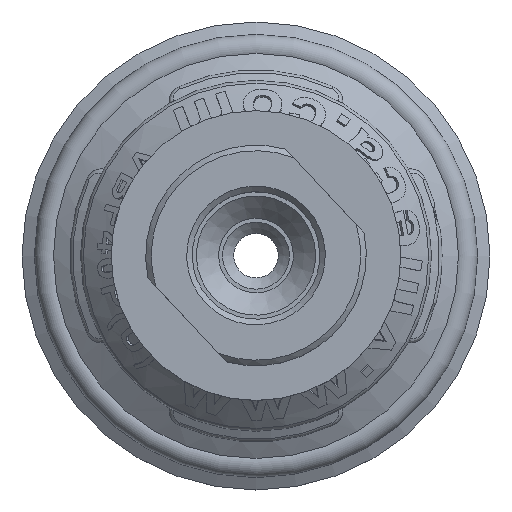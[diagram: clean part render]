
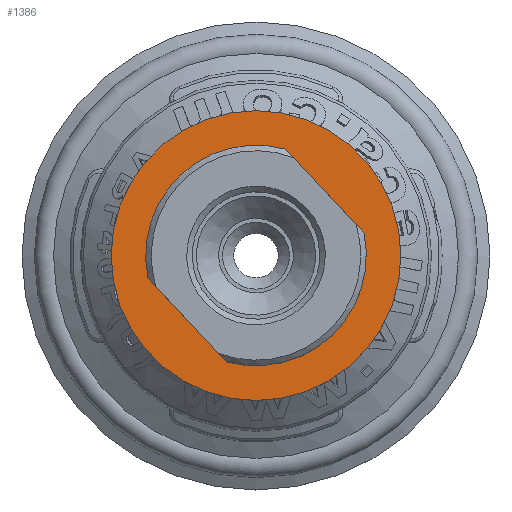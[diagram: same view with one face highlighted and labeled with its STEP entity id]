
A CAD part, top view. The second image highlights one B-rep face of the part: STEP entity #1386.
In plain terms, the highlighted planar face has unit normal (0, 0, 1).
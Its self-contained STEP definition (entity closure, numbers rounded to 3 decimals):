
#1386 = ADVANCED_FACE( '', ( #2849, #2850 ), #2851, .T. );
#2849 = FACE_BOUND( '', #11056, .T. );
#2850 = FACE_OUTER_BOUND( '', #11057, .T. );
#2851 = PLANE( '', #11058 );
#11056 = EDGE_LOOP( '', ( #14602, #14603, #14604, #14605 ) );
#11057 = EDGE_LOOP( '', ( #14606 ) );
#11058 = AXIS2_PLACEMENT_3D( '', #14607, #14608, #14609 );
#14602 = ORIENTED_EDGE( '', *, *, #15338, .F. );
#14603 = ORIENTED_EDGE( '', *, *, #16133, .F. );
#14604 = ORIENTED_EDGE( '', *, *, #15014, .T. );
#14605 = ORIENTED_EDGE( '', *, *, #14916, .F. );
#14606 = ORIENTED_EDGE( '', *, *, #16191, .T. );
#14607 = CARTESIAN_POINT( '', ( 11.5, 0., 11.5 ) );
#14608 = DIRECTION( '', ( 0., 0., 1. ) );
#14609 = DIRECTION( '', ( 1., 0., 0. ) );
#14916 = EDGE_CURVE( '', #16729, #16732, #16733, .T. );
#15014 = EDGE_CURVE( '', #16898, #16732, #16899, .T. );
#15338 = EDGE_CURVE( '', #17412, #16729, #17415, .T. );
#16133 = EDGE_CURVE( '', #16898, #17412, #18474, .T. );
#16191 = EDGE_CURVE( '', #18534, #18534, #18535, .T. );
#16729 = VERTEX_POINT( '', #19876 );
#16732 = VERTEX_POINT( '', #19880 );
#16733 = CIRCLE( '', #19881, 9.9 );
#16898 = VERTEX_POINT( '', #20448 );
#16899 = LINE( '', #20449, #20450 );
#17412 = VERTEX_POINT( '', #22213 );
#17415 = LINE( '', #22217, #22218 );
#18474 = CIRCLE( '', #25874, 9.9 );
#18534 = VERTEX_POINT( '', #25980 );
#18535 = CIRCLE( '', #25981, 13. );
#19876 = CARTESIAN_POINT( '', ( 2.648, 9.539, 11.5 ) );
#19880 = CARTESIAN_POINT( '', ( -9.695, -2.005, 11.5 ) );
#19881 = AXIS2_PLACEMENT_3D( '', #26222, #26223, #26224 );
#20448 = CARTESIAN_POINT( '', ( -2.648, -9.539, 11.5 ) );
#20449 = CARTESIAN_POINT( '', ( -0.806, -11.509, 11.5 ) );
#20450 = VECTOR( '', #26306, 1000. );
#22213 = CARTESIAN_POINT( '', ( 9.695, 2.005, 11.5 ) );
#22217 = CARTESIAN_POINT( '', ( 11.537, 0.035, 11.5 ) );
#22218 = VECTOR( '', #26532, 1000. );
#25874 = AXIS2_PLACEMENT_3D( '', #27057, #27058, #27059 );
#25980 = CARTESIAN_POINT( '', ( 13., 0., 11.5 ) );
#25981 = AXIS2_PLACEMENT_3D( '', #27095, #27096, #27097 );
#26222 = CARTESIAN_POINT( '', ( 0., 0., 11.5 ) );
#26223 = DIRECTION( '', ( 0., 0., 1. ) );
#26224 = DIRECTION( '', ( 1., 0., 0. ) );
#26306 = DIRECTION( '', ( -0.683, 0.73, 0. ) );
#26532 = DIRECTION( '', ( -0.683, 0.73, 0. ) );
#27057 = CARTESIAN_POINT( '', ( 0., 0., 11.5 ) );
#27058 = DIRECTION( '', ( 0., 0., 1. ) );
#27059 = DIRECTION( '', ( 1., 0., 0. ) );
#27095 = CARTESIAN_POINT( '', ( 0., 0., 11.5 ) );
#27096 = DIRECTION( '', ( 0., 0., 1. ) );
#27097 = DIRECTION( '', ( 1., 0., 0. ) );
